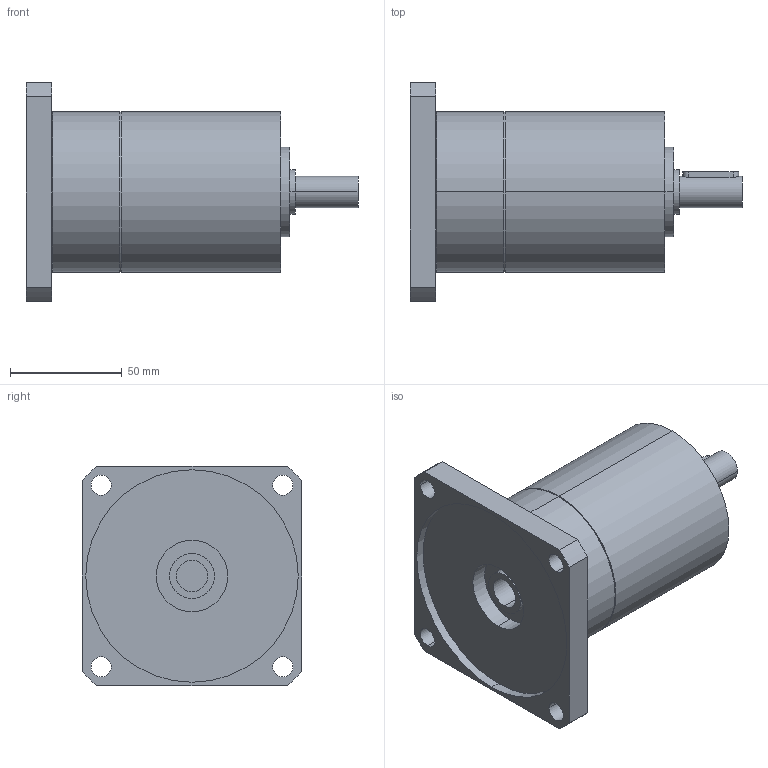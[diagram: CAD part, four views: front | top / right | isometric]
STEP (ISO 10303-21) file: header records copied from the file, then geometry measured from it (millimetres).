
FILE_DESCRIPTION(('CoCreate Modeling STEP Export'),'2;1');
FILE_NAME('GPT75_ig-9-12-16-20-25-28-35-40-50-70-100_14_B14T_14_P08.stp','2014-08-27T13:16:59',(''),(''),'CoCreate Modeling STEP processor for AP214 (Solid Model)','CoCreate Modeling 16.00C 25-Feb-2009 (C) Parametric Technology GmbH','');
FILE_SCHEMA(('AUTOMOTIVE_DESIGN { 1 0 10303 214 1 1 1 1 }'));
Length unit declared in the file: millimetre
Products named in the file (2): GPT75_ig-9-12-16-20-25-28-35-40-50-70-100_14_B14T_14_P08
Assembly tree (1 placements, depth 2):
  GPT75_ig-9-12-16-20-25-28-35-40-50-70-100_14_B14T_14_P08
    GPT75_ig-9-12-16-20-25-28-35-40-50-70-100_14_B14T_14_P08
Bounding box: 148.5 x 98 x 98 mm (x, y, z)
Volume: 495070.3 mm3; surface area: 54102.5 mm2
Topology: 1 solids, 1 shells, 69 faces, 161 edges, 108 vertices
Faces by surface type: cylinder 42, plane 23, cone 4
Entity records: 2136 total; most frequent: CARTESIAN_POINT 659, ORIENTED_EDGE 322, DIRECTION 262, EDGE_CURVE 161, VERTEX_POINT 108, AXIS2_PLACEMENT_3D 99, EDGE_LOOP 91, FACE_OUTER_BOUND 69
